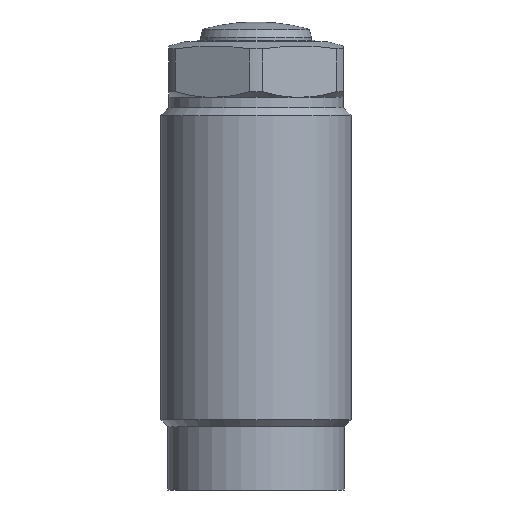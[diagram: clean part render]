
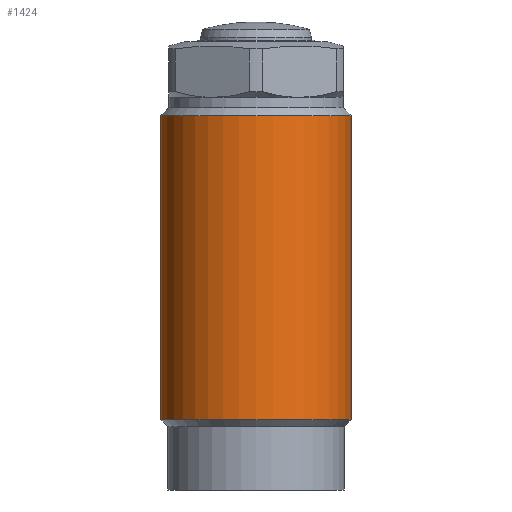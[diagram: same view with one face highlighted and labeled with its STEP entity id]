
A CAD part, front view. The second image highlights one B-rep face of the part: STEP entity #1424.
In plain terms, the highlighted cylindrical face has radius 12 mm (diameter 24 mm), a partial arc.
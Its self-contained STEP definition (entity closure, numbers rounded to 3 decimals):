
#1361=CARTESIAN_POINT('',(-12.0,0.0,-47.65));
#1362=VERTEX_POINT('',#1361);
#1370=CARTESIAN_POINT('',(12.0,0.0,-47.65));
#1371=VERTEX_POINT('',#1370);
#1378=CARTESIAN_POINT('',(0.0,0.0,-47.65));
#1379=DIRECTION('',(0.0,0.0,1.0));
#1380=DIRECTION('',(1.0,0.0,-0.0));
#1381=AXIS2_PLACEMENT_3D('',#1378,#1379,#1380);
#1382=CIRCLE('',#1381,12.0);
#1383=EDGE_CURVE('no 1858',#1362,#1371,#1382,.T.);
#1393=CARTESIAN_POINT('',(-12.,0.0,-9.3));
#1394=VERTEX_POINT('',#1393);
#1395=CARTESIAN_POINT('',(-12.,0.0,-47.65));
#1396=DIRECTION('',(0.,-0.0,1.0));
#1397=VECTOR('',#1396,1.0);
#1398=LINE('',#1395,#1397);
#1399=EDGE_CURVE('no 1868',#1362,#1394,#1398,.T.);
#1400=ORIENTED_EDGE('',*,*,#1399,.F.);
#1401=ORIENTED_EDGE('',*,*,#1383,.T.);
#1402=CARTESIAN_POINT('',(12.,0.0,-9.3));
#1403=VERTEX_POINT('',#1402);
#1404=CARTESIAN_POINT('',(12.,0.0,-47.65));
#1405=DIRECTION('',(0.,0.0,1.0));
#1406=VECTOR('',#1405,1.0);
#1407=LINE('',#1404,#1406);
#1408=EDGE_CURVE('no 1876',#1371,#1403,#1407,.T.);
#1409=ORIENTED_EDGE('',*,*,#1408,.T.);
#1410=CARTESIAN_POINT('',(0.0,0.0,-9.3));
#1411=DIRECTION('',(0.0,0.0,1.0));
#1412=DIRECTION('',(1.0,0.0,-0.0));
#1413=AXIS2_PLACEMENT_3D('',#1410,#1411,#1412);
#1414=CIRCLE('',#1413,12.);
#1415=EDGE_CURVE('no 1880',#1394,#1403,#1414,.T.);
#1416=ORIENTED_EDGE('',*,*,#1415,.F.);
#1417=EDGE_LOOP('',(#1400,#1401,#1409,#1416));
#1418=FACE_OUTER_BOUND('',#1417,.T.);
#1419=CARTESIAN_POINT('',(0.0,0.0,4.2));
#1420=DIRECTION('',(0.0,0.0,1.0));
#1421=DIRECTION('',(0.0,1.0,-0.0));
#1422=AXIS2_PLACEMENT_3D('',#1419,#1420,#1421);
#1423=CYLINDRICAL_SURFACE('',#1422,12.);
#1424=ADVANCED_FACE('no 1861',(#1418),#1423,.T.);
